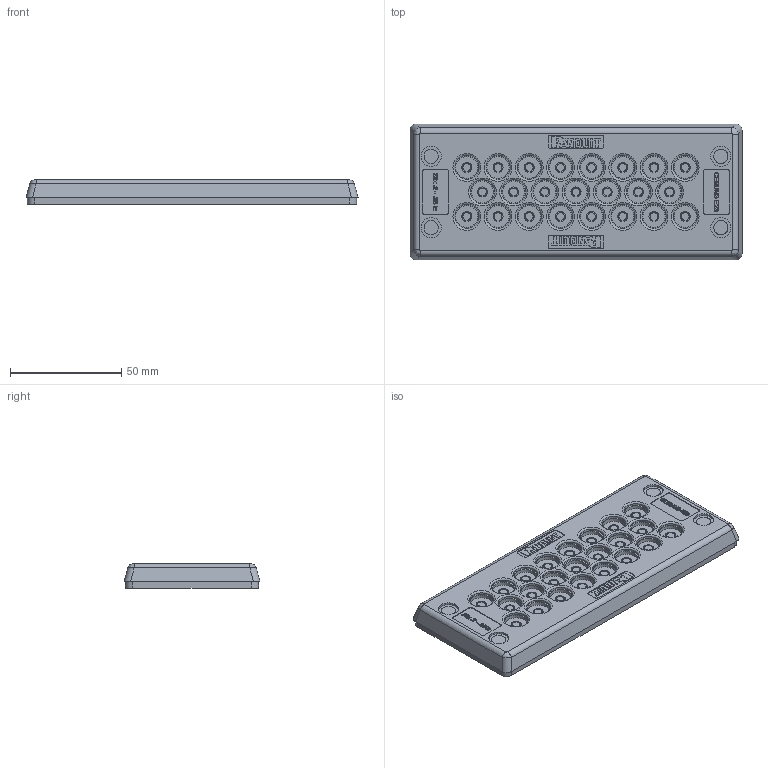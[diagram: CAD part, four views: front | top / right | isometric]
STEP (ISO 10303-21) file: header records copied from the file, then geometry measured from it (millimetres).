
FILE_DESCRIPTION(/* description */ (''),/* implementation_level */ '2;1');
FILE_NAME(/* name */ 'C:\SapWorkDir\Inventor\MP1\ConvertTempPath\87_16_121311_00_A_220602_KDP-Z 24-23.stp',/* time_stamp */ '2022-06-02T09:19:52+02:00',/* author */ ('BAUER'),/* organization */ (''),/* preprocessor_version */ 'ST-DEVELOPER v16.13',/* originating_system */ 'Autodesk Inventor 2018',/* authorisation */ '');
FILE_SCHEMA (('AUTOMOTIVE_DESIGN { 1 0 10303 214 3 1 1 }'));
Products named in the file (1): 121311
Bounding box: 149 x 61 x 11 mm (x, y, z)
Volume: 44287 mm3; surface area: 46067.3 mm2
Topology: 2 solids, 2 shells, 2362 faces, 5889 edges, 3427 vertices
Faces by surface type: plane 995, cylinder 804, sphere 274, bspline 165, cone 81, torus 43
Full cylindrical faces by diameter (mm): 6 x3, 6.4 x8
Entity records: 68874 total; most frequent: CARTESIAN_POINT 14034, DIRECTION 11494, ORIENTED_EDGE 11014, EDGE_CURVE 5507, AXIS2_PLACEMENT_3D 4117, VERTEX_POINT 3415, LINE 3260, VECTOR 3260
